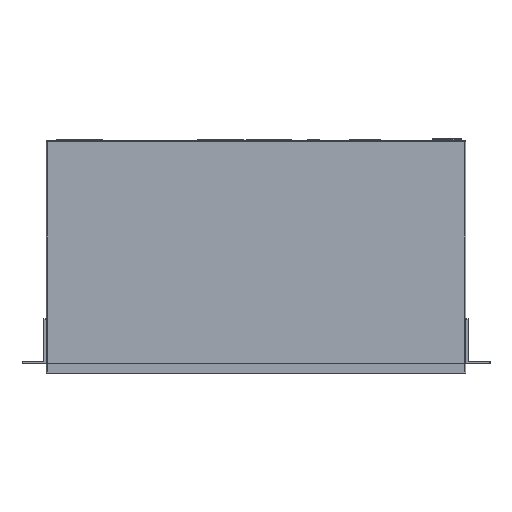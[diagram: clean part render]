
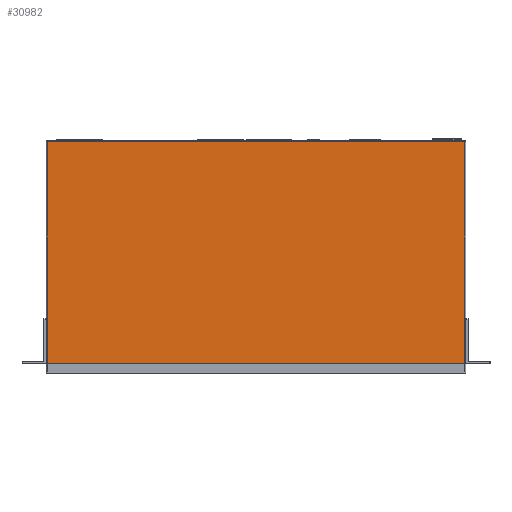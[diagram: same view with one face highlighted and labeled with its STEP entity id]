
A CAD part, top view. The second image highlights one B-rep face of the part: STEP entity #30982.
In plain terms, the highlighted planar face has unit normal (0, 0, 1).
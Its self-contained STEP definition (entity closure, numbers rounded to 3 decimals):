
#27466 = CYLINDRICAL_SURFACE('',#27467,1.);
#27467 = AXIS2_PLACEMENT_3D('',#27468,#27469,#27470);
#27468 = CARTESIAN_POINT('',(-216.5,114.,43.));
#27469 = DIRECTION('',(1.,0.,0.));
#27470 = DIRECTION('',(0.,1.,0.));
#28764 = VERTEX_POINT('',#28765);
#28765 = CARTESIAN_POINT('',(-215.5,114.,44.));
#28787 = EDGE_CURVE('',#28764,#28788,#28790,.T.);
#28788 = VERTEX_POINT('',#28789);
#28789 = CARTESIAN_POINT('',(215.5,114.,44.));
#28790 = SURFACE_CURVE('',#28791,(#28795,#28802),.PCURVE_S1.);
#28791 = LINE('',#28792,#28793);
#28792 = CARTESIAN_POINT('',(-216.5,114.,44.));
#28793 = VECTOR('',#28794,1.);
#28794 = DIRECTION('',(1.,0.,0.));
#28795 = PCURVE('',#27466,#28796);
#28796 = DEFINITIONAL_REPRESENTATION('',(#28797),#28801);
#28797 = LINE('',#28798,#28799);
#28798 = CARTESIAN_POINT('',(1.571,0.));
#28799 = VECTOR('',#28800,1.);
#28800 = DIRECTION('',(0.,1.));
#28801 = ( GEOMETRIC_REPRESENTATION_CONTEXT(2) 
PARAMETRIC_REPRESENTATION_CONTEXT() REPRESENTATION_CONTEXT('2D SPACE',''
  ) );
#28802 = PCURVE('',#28803,#28808);
#28803 = PLANE('',#28804);
#28804 = AXIS2_PLACEMENT_3D('',#28805,#28806,#28807);
#28805 = CARTESIAN_POINT('',(0.,0.,44.));
#28806 = DIRECTION('',(-0.,-0.,-1.));
#28807 = DIRECTION('',(-1.,0.,0.));
#28808 = DEFINITIONAL_REPRESENTATION('',(#28809),#28813);
#28809 = LINE('',#28810,#28811);
#28810 = CARTESIAN_POINT('',(216.5,114.));
#28811 = VECTOR('',#28812,1.);
#28812 = DIRECTION('',(-1.,0.));
#28813 = ( GEOMETRIC_REPRESENTATION_CONTEXT(2) 
PARAMETRIC_REPRESENTATION_CONTEXT() REPRESENTATION_CONTEXT('2D SPACE',''
  ) );
#30793 = PLANE('',#30794);
#30794 = AXIS2_PLACEMENT_3D('',#30795,#30796,#30797);
#30795 = CARTESIAN_POINT('',(216.5,-115.,0.));
#30796 = DIRECTION('',(0.,-1.,0.));
#30797 = DIRECTION('',(-1.,0.,0.));
#30819 = CYLINDRICAL_SURFACE('',#30820,1.);
#30820 = AXIS2_PLACEMENT_3D('',#30821,#30822,#30823);
#30821 = CARTESIAN_POINT('',(-215.5,-115.,43.));
#30822 = DIRECTION('',(0.,1.,0.));
#30823 = DIRECTION('',(-1.,0.,0.));
#30982 = ADVANCED_FACE('',(#30983),#28803,.F.);
#30983 = FACE_BOUND('',#30984,.F.);
#30984 = EDGE_LOOP('',(#30985,#31010,#31031,#31032));
#30985 = ORIENTED_EDGE('',*,*,#30986,.T.);
#30986 = EDGE_CURVE('',#30987,#30989,#30991,.T.);
#30987 = VERTEX_POINT('',#30988);
#30988 = CARTESIAN_POINT('',(215.5,-115.,44.));
#30989 = VERTEX_POINT('',#30990);
#30990 = CARTESIAN_POINT('',(-215.5,-115.,44.));
#30991 = SURFACE_CURVE('',#30992,(#30996,#31003),.PCURVE_S1.);
#30992 = LINE('',#30993,#30994);
#30993 = CARTESIAN_POINT('',(216.5,-115.,44.));
#30994 = VECTOR('',#30995,1.);
#30995 = DIRECTION('',(-1.,0.,0.));
#30996 = PCURVE('',#28803,#30997);
#30997 = DEFINITIONAL_REPRESENTATION('',(#30998),#31002);
#30998 = LINE('',#30999,#31000);
#30999 = CARTESIAN_POINT('',(-216.5,-115.));
#31000 = VECTOR('',#31001,1.);
#31001 = DIRECTION('',(1.,0.));
#31002 = ( GEOMETRIC_REPRESENTATION_CONTEXT(2) 
PARAMETRIC_REPRESENTATION_CONTEXT() REPRESENTATION_CONTEXT('2D SPACE',''
  ) );
#31003 = PCURVE('',#30793,#31004);
#31004 = DEFINITIONAL_REPRESENTATION('',(#31005),#31009);
#31005 = LINE('',#31006,#31007);
#31006 = CARTESIAN_POINT('',(0.,-44.));
#31007 = VECTOR('',#31008,1.);
#31008 = DIRECTION('',(1.,0.));
#31009 = ( GEOMETRIC_REPRESENTATION_CONTEXT(2) 
PARAMETRIC_REPRESENTATION_CONTEXT() REPRESENTATION_CONTEXT('2D SPACE',''
  ) );
#31010 = ORIENTED_EDGE('',*,*,#31011,.T.);
#31011 = EDGE_CURVE('',#30989,#28764,#31012,.T.);
#31012 = SURFACE_CURVE('',#31013,(#31017,#31024),.PCURVE_S1.);
#31013 = LINE('',#31014,#31015);
#31014 = CARTESIAN_POINT('',(-215.5,-115.,44.));
#31015 = VECTOR('',#31016,1.);
#31016 = DIRECTION('',(0.,1.,0.));
#31017 = PCURVE('',#28803,#31018);
#31018 = DEFINITIONAL_REPRESENTATION('',(#31019),#31023);
#31019 = LINE('',#31020,#31021);
#31020 = CARTESIAN_POINT('',(215.5,-115.));
#31021 = VECTOR('',#31022,1.);
#31022 = DIRECTION('',(0.,1.));
#31023 = ( GEOMETRIC_REPRESENTATION_CONTEXT(2) 
PARAMETRIC_REPRESENTATION_CONTEXT() REPRESENTATION_CONTEXT('2D SPACE',''
  ) );
#31024 = PCURVE('',#30819,#31025);
#31025 = DEFINITIONAL_REPRESENTATION('',(#31026),#31030);
#31026 = LINE('',#31027,#31028);
#31027 = CARTESIAN_POINT('',(1.571,0.));
#31028 = VECTOR('',#31029,1.);
#31029 = DIRECTION('',(0.,1.));
#31030 = ( GEOMETRIC_REPRESENTATION_CONTEXT(2) 
PARAMETRIC_REPRESENTATION_CONTEXT() REPRESENTATION_CONTEXT('2D SPACE',''
  ) );
#31031 = ORIENTED_EDGE('',*,*,#28787,.T.);
#31032 = ORIENTED_EDGE('',*,*,#31033,.T.);
#31033 = EDGE_CURVE('',#28788,#30987,#31034,.T.);
#31034 = SURFACE_CURVE('',#31035,(#31039,#31046),.PCURVE_S1.);
#31035 = LINE('',#31036,#31037);
#31036 = CARTESIAN_POINT('',(215.5,115.,44.));
#31037 = VECTOR('',#31038,1.);
#31038 = DIRECTION('',(0.,-1.,0.));
#31039 = PCURVE('',#28803,#31040);
#31040 = DEFINITIONAL_REPRESENTATION('',(#31041),#31045);
#31041 = LINE('',#31042,#31043);
#31042 = CARTESIAN_POINT('',(-215.5,115.));
#31043 = VECTOR('',#31044,1.);
#31044 = DIRECTION('',(0.,-1.));
#31045 = ( GEOMETRIC_REPRESENTATION_CONTEXT(2) 
PARAMETRIC_REPRESENTATION_CONTEXT() REPRESENTATION_CONTEXT('2D SPACE',''
  ) );
#31046 = PCURVE('',#31047,#31052);
#31047 = CYLINDRICAL_SURFACE('',#31048,1.);
#31048 = AXIS2_PLACEMENT_3D('',#31049,#31050,#31051);
#31049 = CARTESIAN_POINT('',(215.5,115.,43.));
#31050 = DIRECTION('',(0.,-1.,0.));
#31051 = DIRECTION('',(1.,0.,0.));
#31052 = DEFINITIONAL_REPRESENTATION('',(#31053),#31057);
#31053 = LINE('',#31054,#31055);
#31054 = CARTESIAN_POINT('',(1.571,0.));
#31055 = VECTOR('',#31056,1.);
#31056 = DIRECTION('',(0.,1.));
#31057 = ( GEOMETRIC_REPRESENTATION_CONTEXT(2) 
PARAMETRIC_REPRESENTATION_CONTEXT() REPRESENTATION_CONTEXT('2D SPACE',''
  ) );
